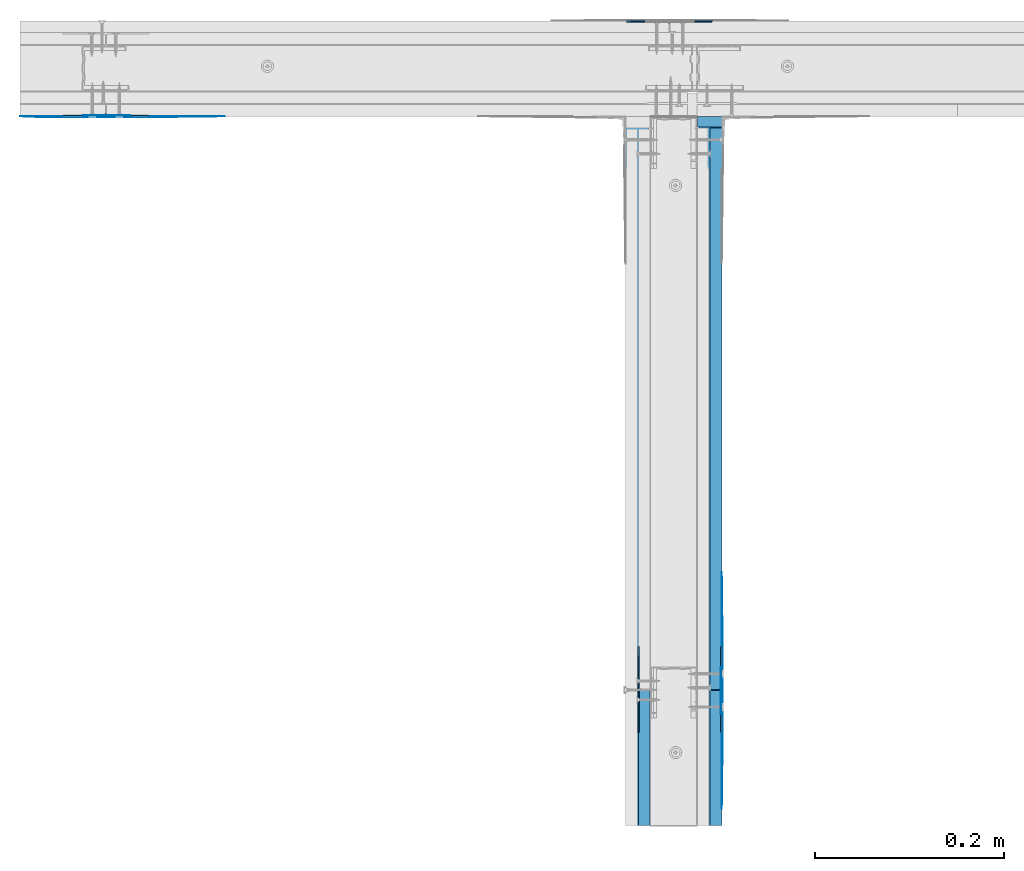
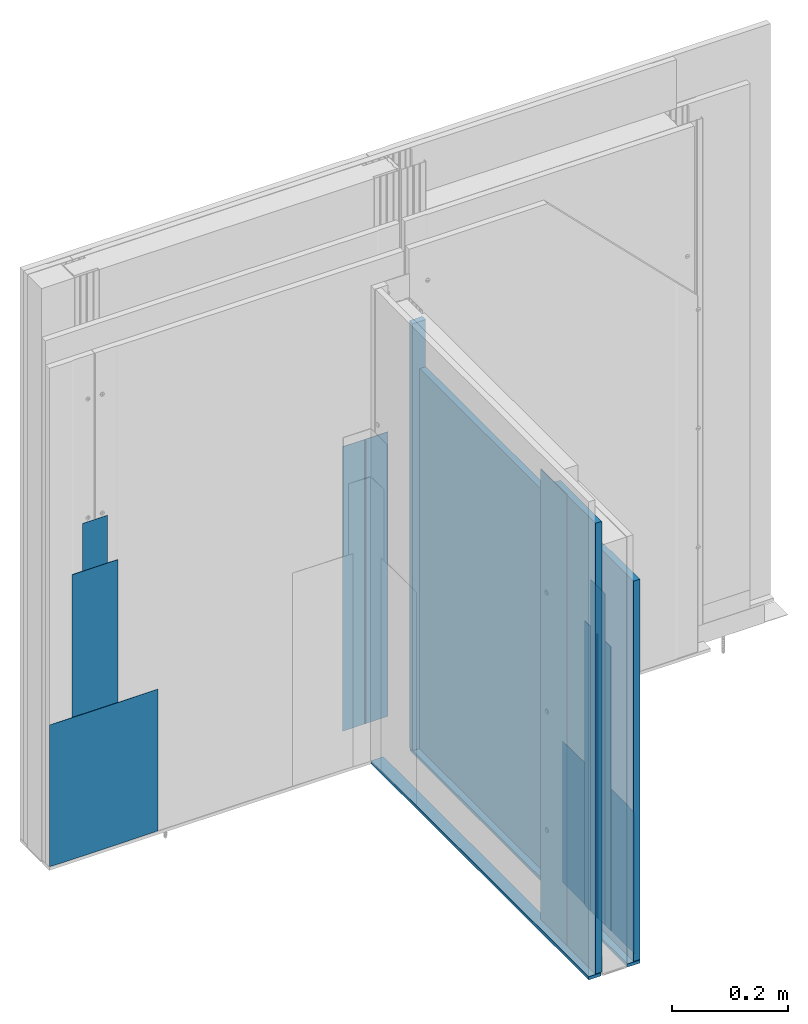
# One storey, part 8 of 95: 14 walls.
"""IFC2X3 building model written with IfcOpenShell, lengths in millimetres."""

from ifc_helpers import new_model, entity, si_unit, converted_unit, direction, frame, origin, origin_with_axes, place, context, project, spatial, faceted_brep, element, save


model = new_model("IFC2X3")

# Units and contexts
model_context = context("Model", 3, precision=1e-05, world=origin(), true_north=direction((0.0, 1.0, 0.0)))
ifc_project = project(units=[si_unit("LENGTHUNIT", "METRE", prefix="MILLI"), si_unit("AREAUNIT", "SQUARE_METRE"), si_unit("VOLUMEUNIT", "CUBIC_METRE"), converted_unit("PLANEANGLEUNIT", "DEGREE", entity("IfcPlaneAngleMeasure", 0.01745), si_unit("PLANEANGLEUNIT", "RADIAN"), dimensions=[0, 0, 0, 0, 0, 0, 0]), si_unit("SOLIDANGLEUNIT", "STERADIAN"), si_unit("MASSUNIT", "GRAM"), si_unit("TIMEUNIT", "SECOND"), si_unit("THERMODYNAMICTEMPERATUREUNIT", "DEGREE_CELSIUS"), si_unit("LUMINOUSINTENSITYUNIT", "LUMEN")], contexts=[model_context])

# Site, building, storey
site_placement = place(None, origin_with_axes())
site = spatial("IfcSite", under=ifc_project, at=site_placement, Name="Default Site", CompositionType="ELEMENT")
building_placement = place(site_placement, origin_with_axes())
building = spatial("IfcBuilding", under=site, at=building_placement, Name="Default Building", CompositionType="ELEMENT")
storey_placement = place(building_placement, origin_with_axes())
storey = spatial("IfcBuildingStorey", under=building, at=storey_placement, Name="Default Building Storey", CompositionType="ELEMENT", Elevation=0.0)

# Walls
wall_1_placement = place(storey_placement, frame((3549.004115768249, -1267.45495376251, 7.54842138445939), z_axis=(0.0, 0.0, 1.0), x_axis=(1.0, 0.0, 0.0)))
element("IfcWall", 1, at=wall_1_placement, inside=storey, Name="Dedykowana masa szpachlowa Rigips - konstrukcyjna", context=model_context, shape_type="Brep", body=[
    faceted_brep([(-737.4838396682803, 3387.6695906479, 600.7999999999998), (-737.4592163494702, 3387.356721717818, 600.7999999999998), (-737.434593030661, 3387.6695906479, 600.7999999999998), (-737.3613293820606, 3387.974755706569, 600.7999999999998), (-737.2412293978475, 3388.264702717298, 600.7999999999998), (-737.07725033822, 3388.532292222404, 600.7999999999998), (-736.8734299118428, 3388.770935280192, 600.7999999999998), (-736.6347868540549, 3388.974755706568, 600.7999999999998), (-736.3671973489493, 3389.138734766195, 600.7999999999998), (-736.0772503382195, 3389.258834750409, 600.7999999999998), (-735.7720852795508, 3389.332098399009, 600.7999999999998), (-735.45921634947, 3389.356721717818, 600.7999999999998), (-692.4592163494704, 3389.356721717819, 600.7999999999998), (-691.4592163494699, 3390.556721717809, 600.7999999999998), (-782.4592163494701, 3390.556721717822, 600.7999999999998), (-782.4592163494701, 3389.356721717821, 600.7999999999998), (-739.4592163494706, 3389.356721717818, 600.7999999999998), (-739.1463474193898, 3389.332098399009, 600.7999999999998), (-738.8411823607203, 3389.258834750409, 600.7999999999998), (-738.5512353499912, 3389.138734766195, 600.7999999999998), (-738.2836458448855, 3388.974755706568, 600.7999999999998), (-738.0450027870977, 3388.770935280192, 600.7999999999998), (-737.8411823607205, 3388.532292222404, 600.7999999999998), (-737.6772033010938, 3388.264702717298, 600.7999999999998), (-737.55710331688, 3387.974755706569, 600.7999999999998), (-691.4592163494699, 3390.556721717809, 2.449996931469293), (-692.4592163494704, 3389.356721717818, 2.449996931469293), (-735.45921634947, 3389.356721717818, 2.449996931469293), (-735.7720852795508, 3389.332098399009, 2.449996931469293), (-736.0772503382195, 3389.258834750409, 2.449996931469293), (-736.3671973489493, 3389.138734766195, 2.449996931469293), (-736.6347868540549, 3388.974755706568, 2.449996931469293), (-736.8734299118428, 3388.770935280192, 2.449996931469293), (-737.07725033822, 3388.532292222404, 2.449996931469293), (-737.2412293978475, 3388.264702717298, 2.449996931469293), (-737.3613293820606, 3387.974755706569, 2.449996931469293), (-737.434593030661, 3387.6695906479, 2.449996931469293), (-737.4592163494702, 3387.356721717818, 2.449996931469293), (-737.4838396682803, 3387.6695906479, 2.449996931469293), (-737.55710331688, 3387.974755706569, 2.449996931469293), (-737.6772033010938, 3388.264702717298, 2.449996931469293), (-737.8411823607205, 3388.532292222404, 2.449996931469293), (-738.0450027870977, 3388.770935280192, 2.449996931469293), (-738.2836458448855, 3388.974755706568, 2.449996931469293), (-738.5512353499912, 3389.138734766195, 2.449996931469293), (-738.8411823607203, 3389.258834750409, 2.449996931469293), (-739.1463474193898, 3389.332098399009, 2.449996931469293), (-739.4592163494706, 3389.356721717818, 2.449996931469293), (-782.4592163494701, 3389.356721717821, 2.449996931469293), (-782.4592163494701, 3390.556721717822, 2.449996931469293)], [[[0, 1, 2, 3, 4, 5, 6, 7, 8, 9, 10, 11, 12, 13, 14, 15, 16, 17, 18, 19, 20, 21, 22, 23, 24]], [[25, 26, 27, 28, 29, 30, 31, 32, 33, 34, 35, 36, 37, 38, 39, 40, 41, 42, 43, 44, 45, 46, 47, 48, 49]], [[26, 12, 11, 27]], [[10, 9, 29, 28]], [[28, 27, 11, 10]], [[8, 30, 29, 9]], [[7, 6, 32, 31]], [[31, 30, 8, 7]], [[5, 4, 34, 33]], [[33, 32, 6, 5]], [[3, 35, 34, 4]], [[2, 1, 37, 36]], [[36, 35, 3, 2]], [[0, 24, 39, 38]], [[38, 37, 1, 0]], [[23, 40, 39, 24]], [[22, 21, 42, 41]], [[41, 40, 23, 22]], [[20, 19, 44, 43]], [[43, 42, 21, 20]], [[18, 45, 44, 19]], [[17, 16, 47, 46]], [[46, 45, 18, 17]], [[47, 16, 15, 48]], [[48, 15, 14, 49]], [[49, 14, 13, 25]], [[25, 13, 12, 26]]]),
])
wall_2_placement = place(storey_placement, frame((2953.004115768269, 5412.658489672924, 7.548421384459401), z_axis=(0.0, 0.0, 1.0), x_axis=(1.0, 0.0, 0.0)))
element("IfcWall", 2, at=wall_2_placement, inside=storey, Name="Dedykowana masa szpachlowa Rigips - konstrukcyjna", context=model_context, shape_type="Brep", body=[
    faceted_brep([(-737.4838396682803, -3387.6695906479, 600.7999999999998), (-737.4592163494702, -3387.356721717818, 600.7999999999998), (-737.434593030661, -3387.6695906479, 600.7999999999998), (-737.3613293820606, -3387.974755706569, 600.7999999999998), (-737.2412293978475, -3388.264702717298, 600.7999999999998), (-737.07725033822, -3388.532292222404, 600.7999999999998), (-736.8734299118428, -3388.770935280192, 600.7999999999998), (-736.6347868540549, -3388.974755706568, 600.7999999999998), (-736.3671973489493, -3389.138734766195, 600.7999999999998), (-736.0772503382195, -3389.258834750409, 600.7999999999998), (-735.7720852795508, -3389.332098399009, 600.7999999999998), (-735.45921634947, -3389.356721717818, 600.7999999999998), (-692.4592163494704, -3389.356721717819, 600.7999999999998), (-691.4592163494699, -3390.556721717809, 600.7999999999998), (-782.4592163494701, -3390.556721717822, 600.7999999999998), (-782.4592163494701, -3389.356721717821, 600.7999999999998), (-739.4592163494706, -3389.356721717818, 600.7999999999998), (-739.1463474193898, -3389.332098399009, 600.7999999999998), (-738.8411823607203, -3389.258834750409, 600.7999999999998), (-738.5512353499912, -3389.138734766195, 600.7999999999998), (-738.2836458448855, -3388.974755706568, 600.7999999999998), (-738.0450027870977, -3388.770935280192, 600.7999999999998), (-737.8411823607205, -3388.532292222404, 600.7999999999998), (-737.6772033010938, -3388.264702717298, 600.7999999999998), (-737.55710331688, -3387.974755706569, 600.7999999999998), (-691.4592163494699, -3390.556721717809, 2.449996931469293), (-692.4592163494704, -3389.356721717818, 2.449996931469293), (-735.45921634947, -3389.356721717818, 2.449996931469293), (-735.7720852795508, -3389.332098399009, 2.449996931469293), (-736.0772503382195, -3389.258834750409, 2.449996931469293), (-736.3671973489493, -3389.138734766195, 2.449996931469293), (-736.6347868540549, -3388.974755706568, 2.449996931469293), (-736.8734299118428, -3388.770935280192, 2.449996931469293), (-737.07725033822, -3388.532292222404, 2.449996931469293), (-737.2412293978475, -3388.264702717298, 2.449996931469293), (-737.3613293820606, -3387.974755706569, 2.449996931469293), (-737.434593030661, -3387.6695906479, 2.449996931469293), (-737.4592163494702, -3387.356721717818, 2.449996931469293), (-737.4838396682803, -3387.6695906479, 2.449996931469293), (-737.55710331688, -3387.974755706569, 2.449996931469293), (-737.6772033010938, -3388.264702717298, 2.449996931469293), (-737.8411823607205, -3388.532292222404, 2.449996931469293), (-738.0450027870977, -3388.770935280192, 2.449996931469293), (-738.2836458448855, -3388.974755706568, 2.449996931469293), (-738.5512353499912, -3389.138734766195, 2.449996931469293), (-738.8411823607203, -3389.258834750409, 2.449996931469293), (-739.1463474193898, -3389.332098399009, 2.449996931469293), (-739.4592163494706, -3389.356721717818, 2.449996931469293), (-782.4592163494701, -3389.356721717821, 2.449996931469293), (-782.4592163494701, -3390.556721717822, 2.449996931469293)], [[[0, 1, 2, 3, 4, 5, 6, 7, 8, 9, 10, 11, 12, 13, 14, 15, 16, 17, 18, 19, 20, 21, 22, 23, 24]], [[25, 26, 27, 28, 29, 30, 31, 32, 33, 34, 35, 36, 37, 38, 39, 40, 41, 42, 43, 44, 45, 46, 47, 48, 49]], [[26, 12, 11, 27]], [[10, 9, 29, 28]], [[28, 27, 11, 10]], [[8, 30, 29, 9]], [[7, 6, 32, 31]], [[31, 30, 8, 7]], [[5, 4, 34, 33]], [[33, 32, 6, 5]], [[3, 35, 34, 4]], [[2, 1, 37, 36]], [[36, 35, 3, 2]], [[0, 24, 39, 38]], [[38, 37, 1, 0]], [[23, 40, 39, 24]], [[22, 21, 42, 41]], [[41, 40, 23, 22]], [[20, 19, 44, 43]], [[43, 42, 21, 20]], [[18, 45, 44, 19]], [[17, 16, 47, 46]], [[46, 45, 18, 17]], [[47, 16, 15, 48]], [[48, 15, 14, 49]], [[49, 14, 13, 25]], [[25, 13, 12, 26]]]),
])
wall_3_placement = place(storey_placement, frame((1479.085683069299, 5412.658489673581, 7.548421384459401), z_axis=(0.0, 0.0, 1.0), x_axis=(-1.0, 8.049116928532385e-16, 0.0)))
element("IfcWall", 3, at=wall_3_placement, inside=storey, Name="Taśma spoinowa RIGIPS", context=model_context, shape_type="Brep", body=[
    faceted_brep([(-712.4592163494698, 3389.356721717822, 700.7999999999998), (-712.4592163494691, 3389.856721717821, 700.7999999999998), (-762.4592163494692, 3389.856721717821, 700.7999999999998), (-762.45921634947, 3389.35672171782, 700.7999999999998), (-712.4592163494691, 3389.856721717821, 2.449996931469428), (-712.4592163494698, 3389.35672171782, 2.449996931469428), (-762.45921634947, 3389.35672171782, 2.449996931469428), (-762.4592163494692, 3389.856721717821, 2.449996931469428)], [[[0, 1, 2, 3]], [[4, 5, 6, 7]], [[5, 0, 3, 6]], [[6, 3, 2, 7]], [[7, 2, 1, 4]], [[4, 1, 0, 5]]]),
])
wall_4_placement = place(storey_placement, frame((1479.085683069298, 5412.658489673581, 7.548421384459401), z_axis=(0.0, 0.0, 1.0), x_axis=(-1.0, 8.049116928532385e-16, 0.0)))
element("IfcWall", 4, at=wall_4_placement, inside=storey, Name="Dedykowana masa szpachlowa Rigips - wykończeniowa", context=model_context, shape_type="Brep", body=[
    faceted_brep([(-645.939450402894, 3390.556721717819, 2.449996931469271), (-862.459216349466, 3390.556721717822, 2.449996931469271), (-812.4612643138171, 3391.196716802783, 2.449996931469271), (-762.460240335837, 3391.516720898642, 2.449996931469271), (-712.4581923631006, 3391.516720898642, 2.449996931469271), (-662.4571683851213, 3391.19671680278, 2.449996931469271), (-645.939450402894, 3390.556721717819, 300.8000000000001), (-862.459216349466, 3390.556721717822, 300.8000000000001), (-712.4581923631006, 3391.516720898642, 300.8000000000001), (-762.460240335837, 3391.516720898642, 300.8000000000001), (-812.4612643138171, 3391.196716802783, 300.8000000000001), (-662.4571683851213, 3391.19671680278, 300.8000000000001)], [[[0, 1, 2, 3, 4, 5]], [[0, 6, 7, 1]], [[8, 9, 10, 7, 6, 11]], [[5, 11, 6, 0]], [[11, 5, 4, 8]], [[8, 4, 3, 9]], [[9, 3, 2, 10]], [[1, 7, 10, 2]]]),
])
wall_5_placement = place(storey_placement, frame((2866.120278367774, 2010.770002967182, -205.1555179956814), z_axis=(-2.220446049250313e-16, 1.0, -8.881784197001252e-16), x_axis=(1.97215226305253e-31, -8.881784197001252e-16, -1.0)))
element("IfcWall", 5, at=wall_5_placement, inside=storey, Name="Dedykowana masa szpachlowa Rigips - konstrukcyjna", context=model_context, shape_type="Brep", body=[
    faceted_brep([(-215.1539363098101, 24.6461696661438, 6.136247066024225e-12), (-215.1539363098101, -1.353830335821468, 6.136247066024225e-12), (-1113.404515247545, -1.353830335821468, 5.053379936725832e-12), (-1113.404515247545, 24.6461696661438, 5.053379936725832e-12), (-215.1539363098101, -1.353830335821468, 11.37091977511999), (-1113.404515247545, -1.353830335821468, 11.37091977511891), (-215.1539363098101, 24.6461696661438, 11.37091977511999), (-1113.404515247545, 24.6461696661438, 11.37091977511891)], [[[0, 1, 2, 3]], [[1, 4, 5, 2]], [[4, 6, 7, 5]], [[6, 0, 3, 7]], [[7, 3, 2, 5]], [[0, 6, 4, 1]]]),
])
wall_6_placement = place(storey_placement, frame((-523.0826130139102, 2152.392792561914, 7.54842138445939), z_axis=(0.0, 0.0, 1.0), x_axis=(-4.423544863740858e-16, 1.0, 0.0)))
element("IfcWall", 6, at=wall_6_placement, inside=storey, Name="Dedykowana masa szpachlowa Rigips - wykończeniowa", context=model_context, shape_type="Brep", body=[
    faceted_brep([(-612.459216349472, -3390.556721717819, 2.449996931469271), (-862.459216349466, -3390.556721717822, 2.449996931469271), (-812.4612643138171, -3391.196716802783, 2.449996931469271), (-762.4602403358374, -3391.516720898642, 2.449996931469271), (-712.458192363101, -3391.516720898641, 2.449996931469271), (-662.4571683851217, -3391.19671680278, 2.449996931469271), (-762.4602403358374, -3391.516720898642, 300.8000000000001), (-812.4612643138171, -3391.196716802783, 300.8000000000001), (-862.459216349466, -3390.556721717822, 300.8000000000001), (-612.459216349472, -3390.556721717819, 300.8000000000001), (-662.4571683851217, -3391.19671680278, 300.8000000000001), (-712.458192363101, -3391.516720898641, 300.8000000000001)], [[[0, 1, 2, 3, 4, 5]], [[6, 7, 8, 9, 10, 11]], [[9, 0, 5, 10]], [[10, 5, 4, 11]], [[11, 4, 3, 6]], [[6, 3, 2, 7]], [[1, 8, 7, 2]], [[0, 9, 8, 1]]]),
])
wall_7_placement = place(storey_placement, frame((2854.974108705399, 214.9335762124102, 1159.999999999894), z_axis=(0.0, 0.0, 1.0), x_axis=(-6.37705166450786e-13, 1.0, 0.0)))
element("IfcWall", 7, at=wall_7_placement, inside=storey, Name="Płyta gipsowo-kartonowa RIGIPS PRO (4PRO™)", context=model_context, shape_type="Brep", body=[
    faceted_brep([(1057.204216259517, 4.042703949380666e-10, -349.9999999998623), (1057.204216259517, -12.49999999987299, -349.9999999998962), (1057.204216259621, -12.49999999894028, -1150.00158168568), (1057.204216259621, 1.336979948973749e-09, -1150.001581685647), (1154.999999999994, -12.49999999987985, -349.9999999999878), (1199.999999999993, 1.126181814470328e-10, -349.9999999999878), (1200.000000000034, -10.49999999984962, -349.9999999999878), (1199.96592582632, -10.75881904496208, -349.9999999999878), (1199.866025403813, -10.99999999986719, -349.9999999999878), (1199.707106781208, -11.20710678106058, -349.9999999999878), (1199.500000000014, -11.36602540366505, -349.9999999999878), (1199.258819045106, -11.46592582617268, -349.9999999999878), (1198.999999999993, -11.49999999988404, -349.9999999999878), (1158.999999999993, -11.49999999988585, -349.9999999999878), (1199.965925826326, -10.75881904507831, -1150.001581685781), (1199.866025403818, -10.99999999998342, -1150.001581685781), (1199.707106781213, -11.20710678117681, -1150.001581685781), (1199.50000000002, -11.36602540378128, -1150.001581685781), (1199.258819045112, -11.46592582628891, -1150.001581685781), (1199.0, -11.50000000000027, -1150.001581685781), (1159.0, -11.50000000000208, -1150.001581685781), (1155.000000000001, -12.49999999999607, -1150.001581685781), (1200.0, -3.609557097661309e-12, -1150.001581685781), (1200.000000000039, -10.49999999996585, -1150.001581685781)], [[[0, 1, 2, 3]], [[4, 1, 0, 5, 6, 7, 8, 9, 10, 11, 12, 13]], [[8, 7, 14, 15]], [[9, 8, 15, 16]], [[10, 9, 16, 17]], [[11, 10, 17, 18]], [[12, 11, 18, 19]], [[13, 12, 19, 20]], [[4, 13, 20, 21]], [[21, 2, 1, 4]], [[0, 3, 22, 5]], [[6, 5, 22, 23]], [[7, 6, 23, 14]], [[14, 23, 22, 3, 2, 21, 20, 19, 18, 17, 16, 15]]]),
])
wall_8_placement = place(storey_placement, frame((-523.0826130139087, 2152.392792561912, 7.54842138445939), z_axis=(0.0, 0.0, 1.0), x_axis=(-4.423544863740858e-16, 1.0, 0.0)))
element("IfcWall", 8, at=wall_8_placement, inside=storey, Name="Taśma spoinowa RIGIPS", context=model_context, shape_type="Brep", body=[
    faceted_brep([(-712.4592163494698, -3389.356721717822, 700.7999999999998), (-712.4592163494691, -3389.856721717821, 700.7999999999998), (-762.4592163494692, -3389.856721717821, 700.7999999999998), (-762.45921634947, -3389.35672171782, 700.7999999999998), (-712.4592163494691, -3389.856721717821, 2.449996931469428), (-712.4592163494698, -3389.35672171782, 2.449996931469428), (-762.45921634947, -3389.35672171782, 2.449996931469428), (-762.4592163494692, -3389.856721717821, 2.449996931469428)], [[[0, 1, 2, 3]], [[4, 5, 6, 7]], [[5, 0, 3, 6]], [[6, 3, 2, 7]], [[7, 2, 1, 4]], [[4, 1, 0, 5]]]),
])
wall_9_placement = place(storey_placement, frame((-523.0826130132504, 678.4743598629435, 7.54842138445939), z_axis=(0.0, 0.0, 1.0), x_axis=(-3.226585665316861e-16, -1.0, 0.0)))
element("IfcWall", 9, at=wall_9_placement, inside=storey, Name="Dedykowana masa szpachlowa Rigips - konstrukcyjna", context=model_context, shape_type="Brep", body=[
    faceted_brep([(-737.4838396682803, 3387.6695906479, 600.7999999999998), (-737.4592163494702, 3387.356721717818, 600.7999999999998), (-737.434593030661, 3387.6695906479, 600.7999999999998), (-737.3613293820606, 3387.974755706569, 600.7999999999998), (-737.2412293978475, 3388.264702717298, 600.7999999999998), (-737.07725033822, 3388.532292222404, 600.7999999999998), (-736.8734299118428, 3388.770935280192, 600.7999999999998), (-736.6347868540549, 3388.974755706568, 600.7999999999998), (-736.3671973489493, 3389.138734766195, 600.7999999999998), (-736.0772503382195, 3389.258834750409, 600.7999999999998), (-735.7720852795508, 3389.332098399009, 600.7999999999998), (-735.45921634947, 3389.356721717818, 600.7999999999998), (-692.4592163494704, 3389.356721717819, 600.7999999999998), (-691.4592163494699, 3390.556721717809, 600.7999999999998), (-782.4592163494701, 3390.556721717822, 600.7999999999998), (-782.4592163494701, 3389.356721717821, 600.7999999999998), (-739.4592163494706, 3389.356721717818, 600.7999999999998), (-739.1463474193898, 3389.332098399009, 600.7999999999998), (-738.8411823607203, 3389.258834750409, 600.7999999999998), (-738.5512353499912, 3389.138734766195, 600.7999999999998), (-738.2836458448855, 3388.974755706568, 600.7999999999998), (-738.0450027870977, 3388.770935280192, 600.7999999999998), (-737.8411823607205, 3388.532292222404, 600.7999999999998), (-737.6772033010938, 3388.264702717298, 600.7999999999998), (-737.55710331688, 3387.974755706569, 600.7999999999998), (-691.4592163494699, 3390.556721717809, 2.449996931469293), (-692.4592163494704, 3389.356721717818, 2.449996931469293), (-735.45921634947, 3389.356721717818, 2.449996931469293), (-735.7720852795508, 3389.332098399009, 2.449996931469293), (-736.0772503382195, 3389.258834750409, 2.449996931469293), (-736.3671973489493, 3389.138734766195, 2.449996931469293), (-736.6347868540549, 3388.974755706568, 2.449996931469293), (-736.8734299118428, 3388.770935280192, 2.449996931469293), (-737.07725033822, 3388.532292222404, 2.449996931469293), (-737.2412293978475, 3388.264702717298, 2.449996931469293), (-737.3613293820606, 3387.974755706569, 2.449996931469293), (-737.434593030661, 3387.6695906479, 2.449996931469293), (-737.4592163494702, 3387.356721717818, 2.449996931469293), (-737.4838396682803, 3387.6695906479, 2.449996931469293), (-737.55710331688, 3387.974755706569, 2.449996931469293), (-737.6772033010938, 3388.264702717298, 2.449996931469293), (-737.8411823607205, 3388.532292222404, 2.449996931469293), (-738.0450027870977, 3388.770935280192, 2.449996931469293), (-738.2836458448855, 3388.974755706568, 2.449996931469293), (-738.5512353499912, 3389.138734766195, 2.449996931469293), (-738.8411823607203, 3389.258834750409, 2.449996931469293), (-739.1463474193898, 3389.332098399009, 2.449996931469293), (-739.4592163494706, 3389.356721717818, 2.449996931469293), (-782.4592163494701, 3389.356721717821, 2.449996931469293), (-782.4592163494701, 3390.556721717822, 2.449996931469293)], [[[0, 1, 2, 3, 4, 5, 6, 7, 8, 9, 10, 11, 12, 13, 14, 15, 16, 17, 18, 19, 20, 21, 22, 23, 24]], [[25, 26, 27, 28, 29, 30, 31, 32, 33, 34, 35, 36, 37, 38, 39, 40, 41, 42, 43, 44, 45, 46, 47, 48, 49]], [[26, 12, 11, 27]], [[10, 9, 29, 28]], [[28, 27, 11, 10]], [[8, 30, 29, 9]], [[7, 6, 32, 31]], [[31, 30, 8, 7]], [[5, 4, 34, 33]], [[33, 32, 6, 5]], [[3, 35, 34, 4]], [[2, 1, 37, 36]], [[36, 35, 3, 2]], [[0, 24, 39, 38]], [[38, 37, 1, 0]], [[23, 40, 39, 24]], [[22, 21, 42, 41]], [[41, 40, 23, 22]], [[20, 19, 44, 43]], [[43, 42, 21, 20]], [[18, 45, 44, 19]], [[17, 16, 47, 46]], [[46, 45, 18, 17]], [[47, 16, 15, 48]], [[48, 15, 14, 49]], [[49, 14, 13, 25]], [[25, 13, 12, 26]]]),
])
wall_10_placement = place(storey_placement, frame((2854.974108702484, 2615.933576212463, 1160.000000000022), z_axis=(0.0, 0.0, 1.0), x_axis=(6.349781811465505e-13, -1.0, 0.0)))
element("IfcWall", 10, at=wall_10_placement, inside=storey, Name="Płyta gipsowo-kartonowa RIGIPS PRO (4PRO™)", context=model_context, shape_type="Brep", body=[
    faceted_brep([(1155.000000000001, 12.49999999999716, -1150.001581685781), (606.1635732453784, 12.49999999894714, -1150.001581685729), (606.1635732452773, 12.49999999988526, -350.0000000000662), (1154.999999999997, 12.49999999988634, -350.0000000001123), (606.1635732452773, -3.919979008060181e-10, -350.0000000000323), (606.1635732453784, -1.330121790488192e-09, -1150.001581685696), (1199.999999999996, -1.072038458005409e-10, -350.0000000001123), (1200.000000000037, 10.49999999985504, -350.0000000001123), (1199.965925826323, 10.7588190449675, -350.0000000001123), (1199.866025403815, 10.99999999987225, -350.0000000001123), (1199.70710678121, 11.20710678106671, -350.0000000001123), (1199.500000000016, 11.36602540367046, -350.0000000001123), (1199.258819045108, 11.46592582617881, -350.0000000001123), (1198.999999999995, 11.49999999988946, -350.0000000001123), (1158.999999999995, 11.49999999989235, -350.0000000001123), (1199.965925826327, 10.75881904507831, -1150.001581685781), (1199.866025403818, 10.99999999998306, -1150.001581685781), (1199.707106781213, 11.20710678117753, -1150.001581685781), (1199.50000000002, 11.36602540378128, -1150.001581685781), (1199.258819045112, 11.46592582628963, -1150.001581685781), (1199.0, 11.50000000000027, -1150.001581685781), (1158.999999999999, 11.50000000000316, -1150.001581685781), (1200.0, 3.609557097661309e-12, -1150.001581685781), (1200.000000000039, 10.49999999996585, -1150.001581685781)], [[[0, 1, 2, 3]], [[4, 2, 1, 5]], [[3, 2, 4, 6, 7, 8, 9, 10, 11, 12, 13, 14]], [[9, 8, 15, 16]], [[10, 9, 16, 17]], [[11, 10, 17, 18]], [[12, 11, 18, 19]], [[13, 12, 19, 20]], [[14, 13, 20, 21]], [[3, 14, 21, 0]], [[4, 5, 22, 6]], [[7, 6, 22, 23]], [[8, 7, 23, 15]], [[15, 23, 22, 5, 1, 0, 21, 20, 19, 18, 17, 16]]]),
])
wall_11_placement = place(storey_placement, frame((2791.47410869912, 215.1932812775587, 1159.999999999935), z_axis=(0.0, 0.0, 1.0), x_axis=(-6.387668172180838e-13, 1.0, 0.0)))
element("IfcWall", 11, at=wall_11_placement, inside=storey, Name="Płyta gipsowo-kartonowa RIGIPS PRO (4PRO™)", context=model_context, shape_type="Brep", body=[
    faceted_brep([(1056.944511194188, -2.302897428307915e-10, -201.7510027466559), (1056.944511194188, 12.50000000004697, -201.7510027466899), (1056.944511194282, 12.49999999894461, -1150.00158168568), (1056.944511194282, -1.332648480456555e-09, -1150.001581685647), (1155.000000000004, 12.50000000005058, -201.7510027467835), (1200.000000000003, 5.703100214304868e-11, -201.7510027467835), (1200.000000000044, 10.50000000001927, -201.7510027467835), (1199.96592582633, 10.75881904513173, -201.7510027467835), (1199.866025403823, 11.00000000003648, -201.7510027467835), (1199.707106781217, 11.20710678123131, -201.7510027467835), (1199.500000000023, 11.3660254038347, -201.7510027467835), (1199.258819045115, 11.46592582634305, -201.7510027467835), (1199.000000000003, 11.50000000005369, -201.7510027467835), (1159.000000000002, 11.50000000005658, -201.7510027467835), (1199.965925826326, 10.75881904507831, -1150.001581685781), (1199.866025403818, 10.99999999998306, -1150.001581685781), (1199.707106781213, 11.20710678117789, -1150.001581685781), (1199.50000000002, 11.36602540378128, -1150.001581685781), (1199.258819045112, 11.46592582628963, -1150.001581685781), (1198.999999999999, 11.50000000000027, -1150.001581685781), (1158.999999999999, 11.50000000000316, -1150.001581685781), (1155.000000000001, 12.49999999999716, -1150.001581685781), (1200.0, 3.609557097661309e-12, -1150.001581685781), (1200.000000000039, 10.49999999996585, -1150.001581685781)], [[[0, 1, 2, 3]], [[4, 1, 0, 5, 6, 7, 8, 9, 10, 11, 12, 13]], [[8, 7, 14, 15]], [[9, 8, 15, 16]], [[10, 9, 16, 17]], [[11, 10, 17, 18]], [[12, 11, 18, 19]], [[13, 12, 19, 20]], [[4, 13, 20, 21]], [[21, 2, 1, 4]], [[0, 3, 22, 5]], [[6, 5, 22, 23]], [[7, 6, 23, 14]], [[14, 23, 22, 3, 2, 21, 20, 19, 18, 17, 16, 15]]]),
])
wall_12_placement = place(storey_placement, frame((2765.474108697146, 1276.327005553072, 2.38402578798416), z_axis=(0.0, 0.0, 1.0), x_axis=(-5.564586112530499e-16, -1.0, 0.0)))
element("IfcWall", 12, at=wall_12_placement, inside=storey, Name="Dedykowana masa szpachlowa Rigips - konstrukcyjna", context=model_context, shape_type="Brep", body=[
    faceted_brep([(4.189213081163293, 24.64616966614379, 0.0), (4.189213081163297, 0.0, 0.0), (-745.8139171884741, 3.609557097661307e-13, 0.0), (-745.8139171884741, 24.64616966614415, 0.0), (4.189213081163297, 0.0, 6.614392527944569), (-745.8139171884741, 3.609557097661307e-13, 6.614392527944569), (4.189213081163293, 24.64616966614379, 6.614392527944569), (-745.8139171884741, 24.64616966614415, 6.614392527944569)], [[[0, 1, 2, 3]], [[1, 4, 5, 2]], [[4, 6, 7, 5]], [[6, 0, 3, 7]], [[7, 3, 2, 5]], [[0, 6, 4, 1]]]),
])
wall_13_placement = place(storey_placement, frame((6169.530830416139, 678.7340649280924, 419.8670288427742), z_axis=(0.0, 0.0, 1.0), x_axis=(-2.636779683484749e-16, -1.0, 0.0)))
element("IfcWall", 13, at=wall_13_placement, inside=storey, Name="Dedykowana masa szpachlowa Rigips - konstrukcyjna", context=model_context, shape_type="Brep", body=[
    faceted_brep([(-737.4838396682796, -3387.669590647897, 538.38196841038), (-737.4592163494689, -3387.356721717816, 538.38196841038), (-737.4345930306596, -3387.669590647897, 538.38196841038), (-737.3613293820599, -3387.974755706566, 538.38196841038), (-737.241229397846, -3388.264702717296, 538.38196841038), (-737.0772503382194, -3388.532292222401, 538.38196841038), (-736.8734299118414, -3388.770935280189, 538.38196841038), (-736.6347868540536, -3388.974755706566, 538.38196841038), (-736.3671973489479, -3389.138734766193, 538.38196841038), (-736.0772503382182, -3389.258834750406, 538.38196841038), (-735.7720852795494, -3389.332098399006, 538.38196841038), (-735.4592163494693, -3389.356721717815, 538.38196841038), (-692.459216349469, -3389.356721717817, 538.38196841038), (-691.4592163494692, -3390.556721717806, 538.38196841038), (-782.4592163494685, -3390.556721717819, 538.38196841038), (-782.4592163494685, -3389.35672171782, 538.38196841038), (-739.4592163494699, -3389.356721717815, 538.38196841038), (-739.1463474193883, -3389.332098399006, 538.38196841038), (-738.8411823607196, -3389.258834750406, 538.38196841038), (-738.5512353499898, -3389.138734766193, 538.38196841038), (-738.2836458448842, -3388.974755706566, 538.38196841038), (-738.0450027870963, -3388.770935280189, 538.38196841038), (-737.8411823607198, -3388.532292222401, 538.38196841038), (-737.6772033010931, -3388.264702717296, 538.38196841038), (-737.5571033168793, -3387.974755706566, 538.38196841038), (-691.4592163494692, -3390.556721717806, -409.8686105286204), (-692.459216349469, -3389.356721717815, -409.8686105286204), (-735.4592163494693, -3389.356721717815, -409.8686105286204), (-735.7720852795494, -3389.332098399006, -409.8686105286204), (-736.0772503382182, -3389.258834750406, -409.8686105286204), (-736.3671973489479, -3389.138734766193, -409.8686105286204), (-736.6347868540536, -3388.974755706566, -409.8686105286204), (-736.8734299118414, -3388.770935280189, -409.8686105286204), (-737.0772503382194, -3388.532292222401, -409.8686105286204), (-737.241229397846, -3388.264702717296, -409.8686105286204), (-737.3613293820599, -3387.974755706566, -409.8686105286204), (-737.4345930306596, -3387.669590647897, -409.8686105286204), (-737.4592163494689, -3387.356721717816, -409.8686105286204), (-737.4838396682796, -3387.669590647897, -409.8686105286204), (-737.5571033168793, -3387.974755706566, -409.8686105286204), (-737.6772033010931, -3388.264702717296, -409.8686105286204), (-737.8411823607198, -3388.532292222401, -409.8686105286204), (-738.0450027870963, -3388.770935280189, -409.8686105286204), (-738.2836458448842, -3388.974755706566, -409.8686105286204), (-738.5512353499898, -3389.138734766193, -409.8686105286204), (-738.8411823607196, -3389.258834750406, -409.8686105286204), (-739.1463474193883, -3389.332098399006, -409.8686105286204), (-739.4592163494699, -3389.356721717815, -409.8686105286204), (-782.4592163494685, -3389.35672171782, -409.8686105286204), (-782.4592163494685, -3390.556721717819, -409.8686105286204)], [[[0, 1, 2, 3, 4, 5, 6, 7, 8, 9, 10, 11, 12, 13, 14, 15, 16, 17, 18, 19, 20, 21, 22, 23, 24]], [[25, 26, 27, 28, 29, 30, 31, 32, 33, 34, 35, 36, 37, 38, 39, 40, 41, 42, 43, 44, 45, 46, 47, 48, 49]], [[26, 12, 11, 27]], [[10, 9, 29, 28]], [[28, 27, 11, 10]], [[8, 30, 29, 9]], [[7, 6, 32, 31]], [[31, 30, 8, 7]], [[5, 4, 34, 33]], [[33, 32, 6, 5]], [[3, 35, 34, 4]], [[2, 1, 37, 36]], [[36, 35, 3, 2]], [[0, 24, 39, 38]], [[38, 37, 1, 0]], [[23, 40, 39, 24]], [[22, 21, 42, 41]], [[41, 40, 23, 22]], [[20, 19, 44, 43]], [[43, 42, 21, 20]], [[18, 45, 44, 19]], [[17, 16, 47, 46]], [[46, 45, 18, 17]], [[47, 16, 15, 48]], [[48, 15, 14, 49]], [[49, 14, 13, 25]], [[25, 13, 12, 26]]]),
])
wall_14_placement = place(storey_placement, frame((2842.827939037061, 1276.327005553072, 2.38402578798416), z_axis=(0.0, 0.0, 1.0), x_axis=(-5.564586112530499e-16, -1.0, 0.0)))
element("IfcWall", 14, at=wall_14_placement, inside=storey, Name="Dedykowana masa szpachlowa Rigips - konstrukcyjna", context=model_context, shape_type="Brep", body=[
    faceted_brep([(4.189213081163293, 24.64616966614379, 0.0), (4.189213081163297, 0.0, 0.0), (-745.8139171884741, 3.609557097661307e-13, 0.0), (-745.8139171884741, 24.64616966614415, 0.0), (4.189213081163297, 0.0, 6.614392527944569), (-745.8139171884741, 3.609557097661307e-13, 6.614392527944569), (4.189213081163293, 24.64616966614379, 6.614392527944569), (-745.8139171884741, 24.64616966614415, 6.614392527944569)], [[[0, 1, 2, 3]], [[1, 4, 5, 2]], [[4, 6, 7, 5]], [[6, 0, 3, 7]], [[7, 3, 2, 5]], [[0, 6, 4, 1]]]),
])

save(model, "model.ifc")
